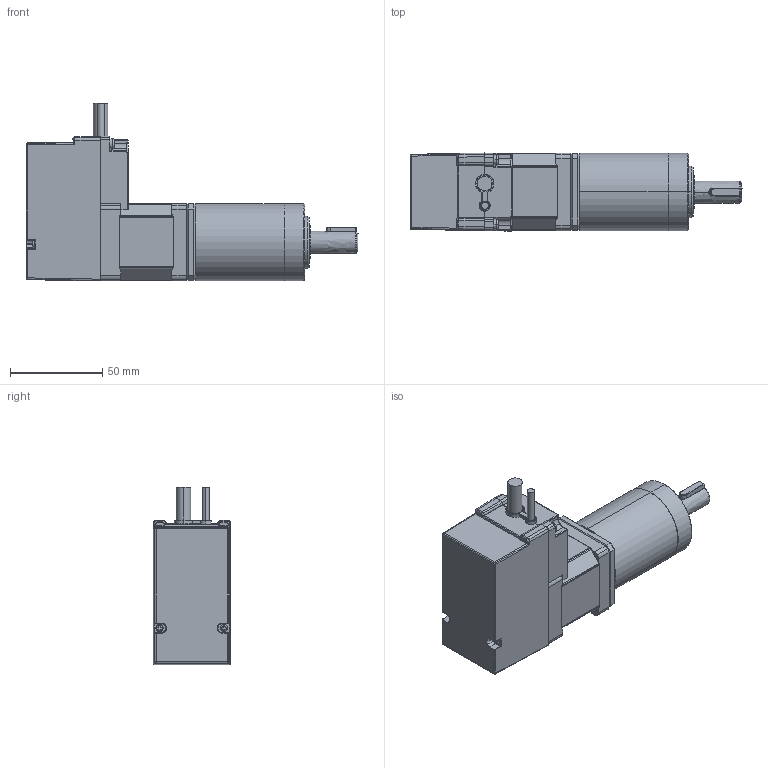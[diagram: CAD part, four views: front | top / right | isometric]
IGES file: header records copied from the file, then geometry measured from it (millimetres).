
Start section: IMSI TurboCAD v14.0
Global section: author: NULL; organization: NULL; date: 20110918.214001; units: millimetre
Bounding box: 180 x 42.23 x 96.5 mm (x, y, z)
Surface area: 62590.2 mm2 (no closed solid volume)
Topology: 0 solids, 0 shells, 579 faces, 2927 edges, 2923 vertices
Faces by surface type: revolution 319, extrusion 235, bspline 25
